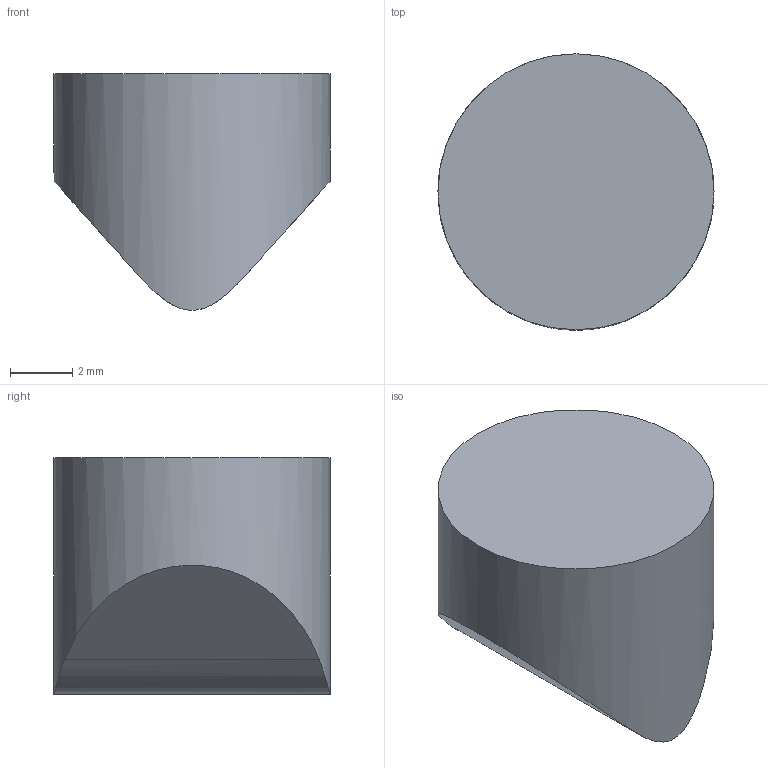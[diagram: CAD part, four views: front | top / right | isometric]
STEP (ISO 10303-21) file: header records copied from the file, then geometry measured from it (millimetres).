
FILE_DESCRIPTION(/* description */ ('Alibre Inc.'),/* implementation_level */ '2;1');
FILE_NAME(/* name */ 'export0',/* time_stamp */ '2011-07-18T15:19:06-04:00',/* author */ (''),/* organization */ (''),/* preprocessor_version */ 'ST-DEVELOPER v12',/* originating_system */ 'Alibre',/* authorisation */ '');
FILE_SCHEMA (('AUTOMOTIVE_DESIGN'));
Length unit declared in the file: centimetre
Bounding box: 8.89 x 8.89 x 7.62 mm (x, y, z)
Volume: 384.8 mm3; surface area: 292.2 mm2
Topology: 1 solids, 1 shells, 6 faces, 12 edges, 8 vertices
Faces by surface type: plane 3, bspline 2, cylinder 1
Full cylindrical faces by diameter (mm): 8.89 x1
Entity records: 205 total; most frequent: CARTESIAN_POINT 85, ORIENTED_EDGE 20, DIRECTION 14, EDGE_CURVE 10, VERTEX_POINT 7, EDGE_LOOP 7, FACE_BOUND 7, AXIS2_PLACEMENT_3D 7
